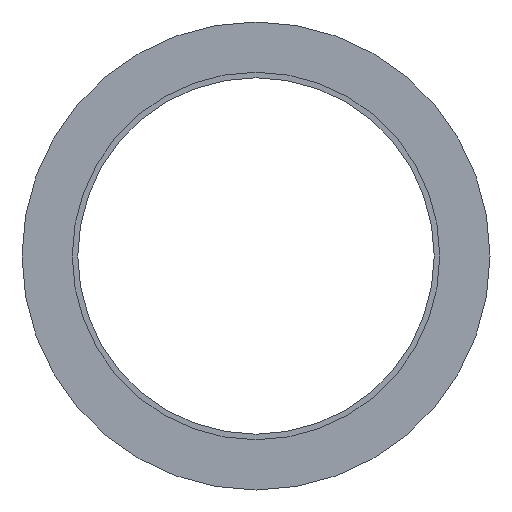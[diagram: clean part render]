
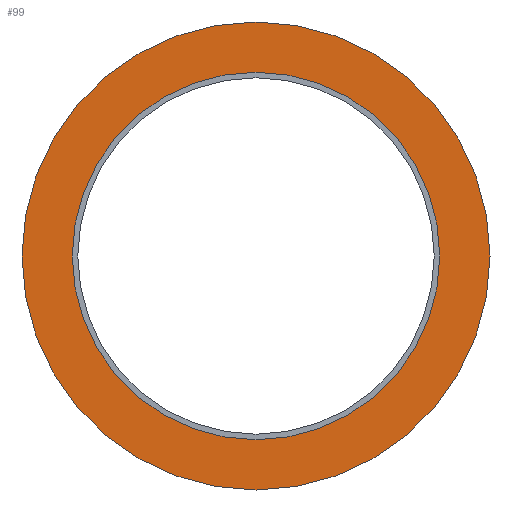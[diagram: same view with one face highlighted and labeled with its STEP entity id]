
A CAD part, front view. The second image highlights one B-rep face of the part: STEP entity #99.
In plain terms, the highlighted planar face has unit normal (0, -1, 0).
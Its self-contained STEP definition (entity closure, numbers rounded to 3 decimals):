
#3 = CARTESIAN_POINT ( 'NONE',  ( 0., 0., 0. ) ) ;
#51 = ORIENTED_EDGE ( 'NONE', *, *, #70, .T. ) ;
#55 = DIRECTION ( 'NONE',  ( 0., 0., -1. ) ) ;
#70 = EDGE_CURVE ( 'NONE', #271, #117, #511, .T. ) ;
#80 = CARTESIAN_POINT ( 'NONE',  ( 0., 0., 65. ) ) ;
#99 = ADVANCED_FACE ( 'NONE', ( #186, #459 ), #375, .F. ) ;
#117 = VERTEX_POINT ( 'NONE', #174 ) ;
#123 = CIRCLE ( 'NONE', #571, 51.05 ) ;
#144 = CARTESIAN_POINT ( 'NONE',  ( 0., 0., 0. ) ) ;
#172 = AXIS2_PLACEMENT_3D ( 'NONE', #272, #600, #326 ) ;
#173 = CARTESIAN_POINT ( 'NONE',  ( 0., 0., 65. ) ) ;
#174 = CARTESIAN_POINT ( 'NONE',  ( 0., 0., -65. ) ) ;
#175 = ORIENTED_EDGE ( 'NONE', *, *, #313, .F. ) ;
#186 = FACE_BOUND ( 'NONE', #585, .T. ) ;
#206 = AXIS2_PLACEMENT_3D ( 'NONE', #3, #227, #222 ) ;
#213 = EDGE_LOOP ( 'NONE', ( #490, #51 ) ) ;
#222 = DIRECTION ( 'NONE',  ( 0., 0., -1. ) ) ;
#227 = DIRECTION ( 'NONE',  ( 0., -1., 0. ) ) ;
#250 = CARTESIAN_POINT ( 'NONE',  ( 0., 0., -51.05 ) ) ;
#264 = DIRECTION ( 'NONE',  ( 0., 1., 0. ) ) ;
#271 = VERTEX_POINT ( 'NONE', #80 ) ;
#272 = CARTESIAN_POINT ( 'NONE',  ( 0., 0., 0. ) ) ;
#286 = CIRCLE ( 'NONE', #433, 65. ) ;
#313 = EDGE_CURVE ( 'NONE', #385, #576, #344, .T. ) ;
#318 = DIRECTION ( 'NONE',  ( 0., 0., 1. ) ) ;
#319 = DIRECTION ( 'NONE',  ( 0., -1., 0. ) ) ;
#325 = DIRECTION ( 'NONE',  ( 0., 0., -1. ) ) ;
#326 = DIRECTION ( 'NONE',  ( 0., 0., -1. ) ) ;
#333 = CARTESIAN_POINT ( 'NONE',  ( 0., 0., 51.05 ) ) ;
#344 = CIRCLE ( 'NONE', #206, 51.05 ) ;
#375 = PLANE ( 'NONE',  #406 ) ;
#377 = CARTESIAN_POINT ( 'NONE',  ( 0., 0., 0. ) ) ;
#385 = VERTEX_POINT ( 'NONE', #250 ) ;
#406 = AXIS2_PLACEMENT_3D ( 'NONE', #173, #264, #318 ) ;
#433 = AXIS2_PLACEMENT_3D ( 'NONE', #144, #485, #55 ) ;
#452 = EDGE_CURVE ( 'NONE', #117, #271, #286, .T. ) ;
#459 = FACE_OUTER_BOUND ( 'NONE', #213, .T. ) ;
#485 = DIRECTION ( 'NONE',  ( 0., -1., 0. ) ) ;
#490 = ORIENTED_EDGE ( 'NONE', *, *, #452, .T. ) ;
#511 = CIRCLE ( 'NONE', #172, 65. ) ;
#571 = AXIS2_PLACEMENT_3D ( 'NONE', #377, #319, #325 ) ;
#576 = VERTEX_POINT ( 'NONE', #333 ) ;
#585 = EDGE_LOOP ( 'NONE', ( #175, #588 ) ) ;
#588 = ORIENTED_EDGE ( 'NONE', *, *, #599, .F. ) ;
#599 = EDGE_CURVE ( 'NONE', #576, #385, #123, .T. ) ;
#600 = DIRECTION ( 'NONE',  ( 0., -1., 0. ) ) ;
